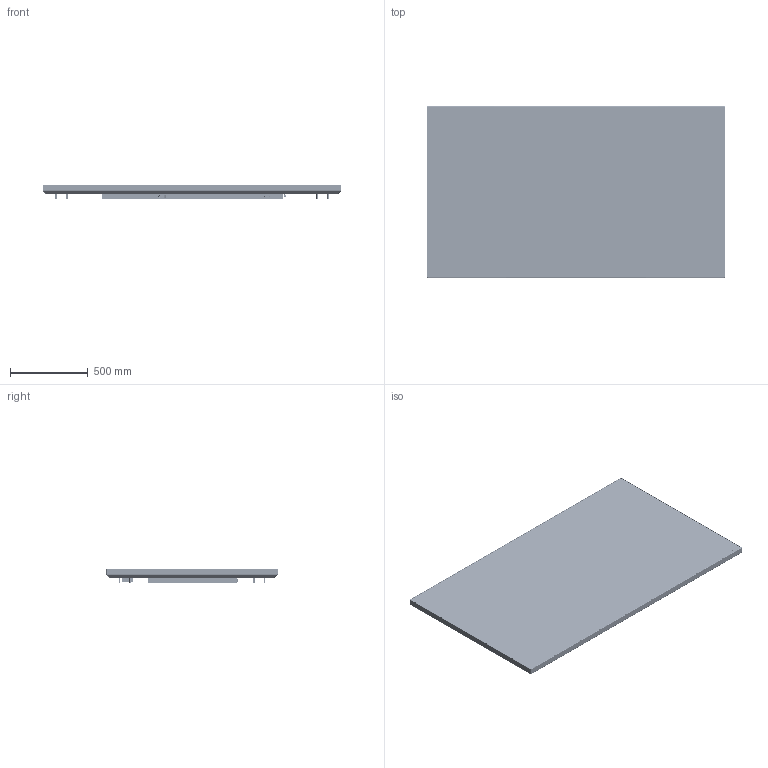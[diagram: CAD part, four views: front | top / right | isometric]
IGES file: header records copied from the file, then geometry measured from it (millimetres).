
Start section: SolidWorks IGES file using analytic representation for surfaces
Global section: file name: C:\Users\cjensen\Desktop\Hayden URX85 ERO Panel 3D.IGS; native system: SolidWorks 2019; preprocessor: SolidWorks 2019; author: cjensen; date: 210118.113257; units: millimetre
Bounding box: 1919.08 x 1100.08 x 95.09 mm (x, y, z)
Surface area: 14845107.6 mm2 (no closed solid volume)
Topology: 0 solids, 0 shells, 13192 faces, 154290 edges, 153788 vertices
Faces by surface type: bspline 8315, revolution 4877
